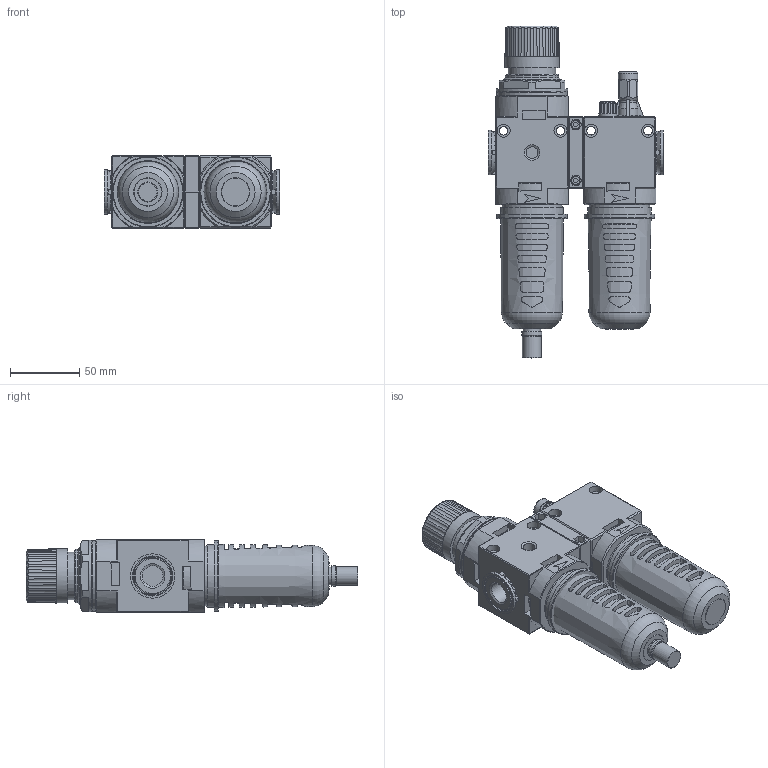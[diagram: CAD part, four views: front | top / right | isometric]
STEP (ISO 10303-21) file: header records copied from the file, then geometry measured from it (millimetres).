
FILE_DESCRIPTION (( 'STEP AP214' ), '1' );
FILE_NAME ('FR+L 050.STEP', '2016-11-24T10:43:08', ( 'utente' ), ( 'Company' ), 'SwSTEP 2.0', 'SolidWorks 2016', '' );
FILE_SCHEMA (( 'AUTOMOTIVE_DESIGN' ));
Length unit declared in the file: millimetre
Products named in the file (4): 0501400025; FR+L 050; C500600001; 0501300025
Assembly tree (3 placements, depth 2):
  FR+L 050
    0501400025
    0501300025
    C500600001
Bounding box: 126.3 x 239.05 x 52.1 mm (x, y, z)
Volume: 737266.3 mm3; surface area: 151932.6 mm2
Topology: 5 solids, 10 shells, 1207 faces, 3111 edges, 2007 vertices
Faces by surface type: plane 698, cylinder 329, cone 126, torus 30, bspline 24
Full cylindrical faces by diameter (mm): 4 x2, 4.2 x2, 5.8 x1, 6.2 x4, 7 x2, 7.3 x1, 8.5 x2, 9.4 x8, 10.4 x1, 11.2 x1, 12.1 x1, 12.5 x1, 13 x1, 13.7 x1, 14 x1, 14.5 x1, 14.9 x4, 20 x2, 20.5 x1, 23 x1, 24 x1, 25.4 x2, 28.9 x2, 29.5 x1, 32 x4, 34 x1, 38.4 x1, 39 x1, 41.7 x2, 43.132 x1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
Entity records: 45138 total; most frequent: CARTESIAN_POINT 11835, ORIENTED_EDGE 5796, DIRECTION 5108, EDGE_CURVE 2898, VERTEX_POINT 1939, AXIS2_PLACEMENT_3D 1840, EDGE_LOOP 1505, LINE 1428
